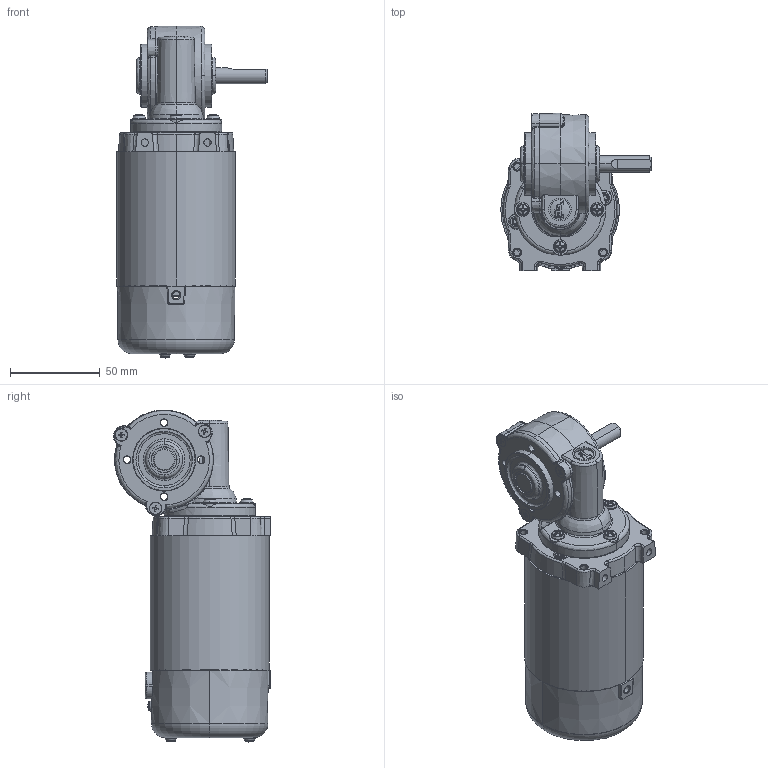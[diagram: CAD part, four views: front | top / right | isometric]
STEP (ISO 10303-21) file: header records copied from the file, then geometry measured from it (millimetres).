
FILE_DESCRIPTION (( 'STEP AP214' ), '1' );
FILE_NAME ('PM11-S.STEP', '2021-10-06T15:52:52', ( '' ), ( '' ), 'SwSTEP 2.0', 'SolidWorks 2020', '' );
FILE_SCHEMA (( 'AUTOMOTIVE_DESIGN' ));
Length unit declared in the file: millimetre
Products named in the file (1): PM11-S
Bounding box: 83.9 x 87.72 x 185.13 mm (x, y, z)
Surface area: 71155.1 mm2 (no closed solid volume)
Topology: 0 solids, 39 shells, 1292 faces, 5188 edges, 3799 vertices
Faces by surface type: plane 564, cone 382, bspline 181, cylinder 121, torus 36, sphere 8
Entity records: 84054 total; most frequent: CARTESIAN_POINT 29338, ORIENTED_EDGE 8124, DIRECTION 7570, EDGE_CURVE 5160, VERTEX_POINT 3799, LINE 3076, VECTOR 3076, AXIS2_PLACEMENT_3D 2247
